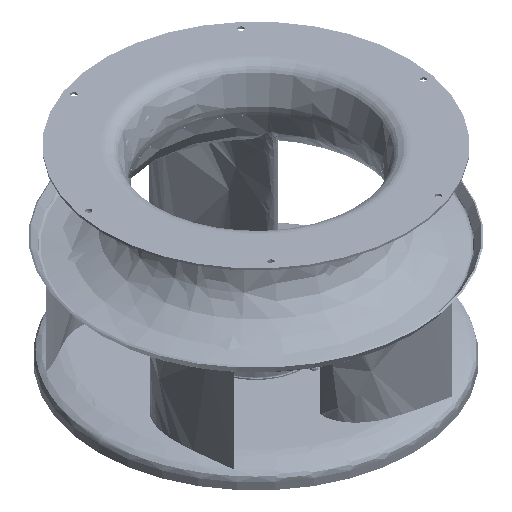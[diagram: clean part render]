
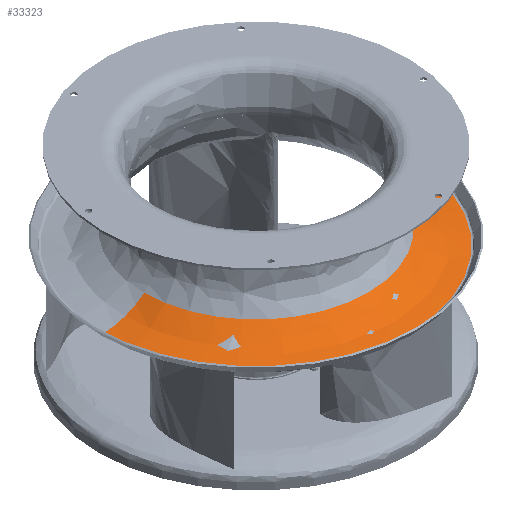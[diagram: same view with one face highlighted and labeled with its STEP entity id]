
A CAD part, isometric view. The second image highlights one B-rep face of the part: STEP entity #33323.
In plain terms, the highlighted free-form (B-spline) face has degree [3, 3] with [4, 4] control points.
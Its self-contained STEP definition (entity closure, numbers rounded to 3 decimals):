
#6466 = ORIENTED_EDGE ( 'NONE', *, *, #257553, .T. ) ;
#8279 = EDGE_CURVE ( 'NONE', #88302, #100822, #105574, .T. ) ;
#11899 = CARTESIAN_POINT ( 'NONE',  ( 259.006, -518.011, 96.477 ) ) ;
#14667 = DIRECTION ( 'NONE',  ( 0., -1., 0. ) ) ;
#20020 =( BOUNDED_SURFACE ( )  B_SPLINE_SURFACE ( 3, 3, ( 
 ( #123373, #35359, #126266, #171650 ),
 ( #38225, #170192, #127718, #233313 ),
 ( #236215, #11899, #104280, #261132 ),
 ( #237657, #193660, #101415, #278817 ) ),
 .UNSPECIFIED., .F., .F., .F. ) 
 B_SPLINE_SURFACE_WITH_KNOTS ( ( 4, 4 ),
 ( 4, 4 ),
 ( 0., 1. ),
 ( 0., 1. ),
 .UNSPECIFIED. ) 
 GEOMETRIC_REPRESENTATION_ITEM ( )  RATIONAL_B_SPLINE_SURFACE ( (
 ( 1., 0.333, 0.333, 1.),
 ( 0.967, 0.322, 0.322, 0.967),
 ( 0.967, 0.322, 0.322, 0.967),
 ( 1., 0.333, 0.333, 1.) ) ) 
 REPRESENTATION_ITEM ( '' )  SURFACE ( )  );
#30879 = DIRECTION ( 'NONE',  ( -1., 0., 0. ) ) ;
#33323 = ADVANCED_FACE ( 'NONE', ( #255353 ), #20020, .F. ) ;
#35359 = CARTESIAN_POINT ( 'NONE',  ( 319.851, -639.701, 108.001 ) ) ;
#38225 = CARTESIAN_POINT ( 'NONE',  ( 288.514, 0., 107.064 ) ) ;
#60033 = EDGE_CURVE ( 'NONE', #102047, #274346, #231316, .T. ) ;
#64332 = CIRCLE ( 'NONE', #228174, 234.221 ) ;
#75512 = ORIENTED_EDGE ( 'NONE', *, *, #8279, .F. ) ;
#85183 = DIRECTION ( 'NONE',  ( -1., 0., 0. ) ) ;
#88302 = VERTEX_POINT ( 'NONE', #208089 ) ;
#93455 = CARTESIAN_POINT ( 'NONE',  ( -234.221, 0., 77.278 ) ) ;
#100822 = VERTEX_POINT ( 'NONE', #288368 ) ;
#101415 = CARTESIAN_POINT ( 'NONE',  ( -234.221, -468.443, 77.278 ) ) ;
#102047 = VERTEX_POINT ( 'NONE', #151535 ) ;
#104280 = CARTESIAN_POINT ( 'NONE',  ( -259.006, -518.011, 96.477 ) ) ;
#105574 = CIRCLE ( 'NONE', #255408, 147. ) ;
#107179 = DIRECTION ( 'NONE',  ( 0., 1., 0. ) ) ;
#123373 = CARTESIAN_POINT ( 'NONE',  ( 319.851, 0., 108.001 ) ) ;
#126266 = CARTESIAN_POINT ( 'NONE',  ( -319.851, -639.701, 108.001 ) ) ;
#127718 = CARTESIAN_POINT ( 'NONE',  ( -288.514, -577.028, 107.064 ) ) ;
#131111 = CARTESIAN_POINT ( 'NONE',  ( 0., 0., 77.278 ) ) ;
#140874 = DIRECTION ( 'NONE',  ( 0., 0., -1. ) ) ;
#142387 = AXIS2_PLACEMENT_3D ( 'NONE', #262601, #107179, #85183 ) ;
#151535 = CARTESIAN_POINT ( 'NONE',  ( -319.851, 0., 108.001 ) ) ;
#167208 = EDGE_LOOP ( 'NONE', ( #75512, #6466, #225044, #239048 ) ) ;
#169703 = EDGE_CURVE ( 'NONE', #274346, #100822, #64332, .T. ) ;
#170192 = CARTESIAN_POINT ( 'NONE',  ( 288.514, -577.028, 107.064 ) ) ;
#171650 = CARTESIAN_POINT ( 'NONE',  ( -319.851, 0., 108.001 ) ) ;
#193559 = DIRECTION ( 'NONE',  ( 1., 0., 0. ) ) ;
#193660 = CARTESIAN_POINT ( 'NONE',  ( 234.221, -468.443, 77.278 ) ) ;
#195613 = DIRECTION ( 'NONE',  ( -1., 0., 0. ) ) ;
#208089 = CARTESIAN_POINT ( 'NONE',  ( 319.851, 0., 108.001 ) ) ;
#215533 = CARTESIAN_POINT ( 'NONE',  ( 324.244, 0., -38.933 ) ) ;
#225044 = ORIENTED_EDGE ( 'NONE', *, *, #60033, .T. ) ;
#228174 = AXIS2_PLACEMENT_3D ( 'NONE', #131111, #289428, #195613 ) ;
#231316 = CIRCLE ( 'NONE', #142387, 147. ) ;
#233187 = CARTESIAN_POINT ( 'NONE',  ( 0., 0., 108.001 ) ) ;
#233313 = CARTESIAN_POINT ( 'NONE',  ( -288.514, 0., 107.064 ) ) ;
#233784 = CIRCLE ( 'NONE', #261877, 319.851 ) ;
#236215 = CARTESIAN_POINT ( 'NONE',  ( 259.006, 0., 96.477 ) ) ;
#237657 = CARTESIAN_POINT ( 'NONE',  ( 234.221, 0., 77.278 ) ) ;
#239048 = ORIENTED_EDGE ( 'NONE', *, *, #169703, .T. ) ;
#255353 = FACE_OUTER_BOUND ( 'NONE', #167208, .T. ) ;
#255408 = AXIS2_PLACEMENT_3D ( 'NONE', #215533, #14667, #193559 ) ;
#257553 = EDGE_CURVE ( 'NONE', #88302, #102047, #233784, .T. ) ;
#261132 = CARTESIAN_POINT ( 'NONE',  ( -259.006, 0., 96.477 ) ) ;
#261877 = AXIS2_PLACEMENT_3D ( 'NONE', #233187, #140874, #30879 ) ;
#262601 = CARTESIAN_POINT ( 'NONE',  ( -324.244, 0., -38.933 ) ) ;
#274346 = VERTEX_POINT ( 'NONE', #93455 ) ;
#278817 = CARTESIAN_POINT ( 'NONE',  ( -234.221, 0., 77.278 ) ) ;
#288368 = CARTESIAN_POINT ( 'NONE',  ( 234.221, 0., 77.278 ) ) ;
#289428 = DIRECTION ( 'NONE',  ( 0., 0., 1. ) ) ;
